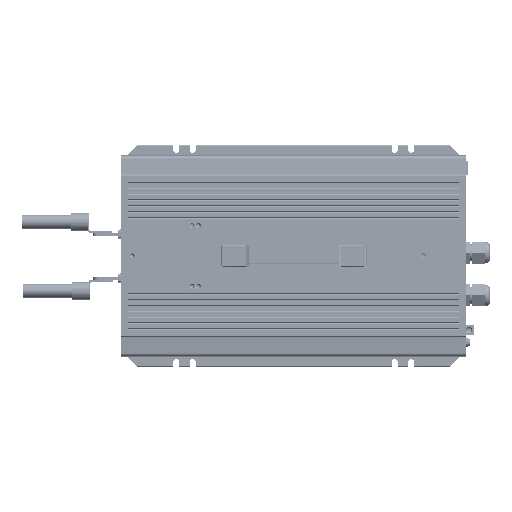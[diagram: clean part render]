
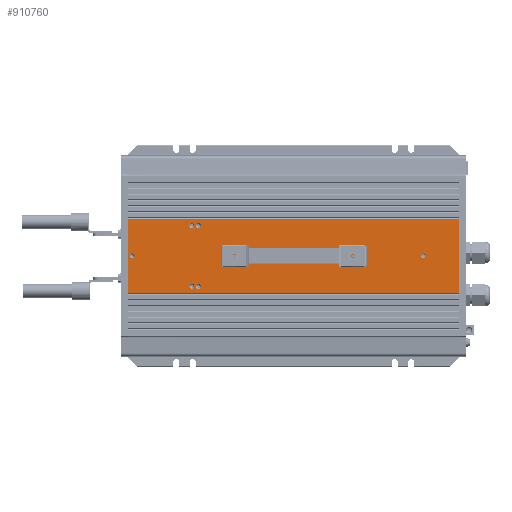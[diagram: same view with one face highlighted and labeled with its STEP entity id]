
A CAD part, top view. The second image highlights one B-rep face of the part: STEP entity #910760.
In plain terms, the highlighted planar face has unit normal (0, 0, 1) as drawn and (0, 1, 0) by its records, which use the part's own axes.
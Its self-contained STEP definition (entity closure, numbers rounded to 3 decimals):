
#888040=CARTESIAN_POINT('',(2078.449,98.104,-63.1));
#888050=VERTEX_POINT('',#888040);
#888080=CARTESIAN_POINT('',(1988.299,98.104,-63.1));
#888090=DIRECTION('',(1.,0.,0.));
#888100=VECTOR('',#888090,90.15);
#888110=LINE('',#888080,#888100);
#888120=CARTESIAN_POINT('',(1988.299,98.104,-63.1));
#888130=VERTEX_POINT('',#888120);
#888140=EDGE_CURVE('',#888130,#888050,#888110,.T.);
#897020=CARTESIAN_POINT('',(1988.299,98.104,340.9));
#897030=VERTEX_POINT('',#897020);
#897060=CARTESIAN_POINT('',(2078.449,98.104,340.9));
#897070=DIRECTION('',(-1.,0.,0.));
#897080=VECTOR('',#897070,90.15);
#897090=LINE('',#897060,#897080);
#897100=CARTESIAN_POINT('',(2078.449,98.104,340.9));
#897110=VERTEX_POINT('',#897100);
#897120=EDGE_CURVE('',#897110,#897030,#897090,.T.);
#908860=CARTESIAN_POINT('',(2030.374,98.104,296.9));
#908870=VERTEX_POINT('',#908860);
#908990=CARTESIAN_POINT('',(2036.374,98.104,296.9));
#909000=VERTEX_POINT('',#908990);
#909030=CARTESIAN_POINT('',(2033.374,98.104,296.9));
#909040=DIRECTION('',(0.,-1.,0.));
#909050=DIRECTION('',(1.,0.,0.));
#909060=AXIS2_PLACEMENT_3D('',#909030,#909040,#909050);
#909070=CIRCLE('',#909060,3.);
#909080=EDGE_CURVE('',#909000,#908870,#909070,.T.);
#909370=CARTESIAN_POINT('',(2028.721,98.104,122.9));
#909380=DIRECTION('',(0.,-1.,0.));
#909390=DIRECTION('',(1.,0.,0.));
#909400=AXIS2_PLACEMENT_3D('',#909370,#909380,#909390);
#909410=PLANE('',#909400);
#909420=CARTESIAN_POINT('',(2033.376,98.104,210.9));
#909430=DIRECTION('',(0.,1.,0.));
#909440=DIRECTION('',(0.,0.,1.));
#909450=AXIS2_PLACEMENT_3D('',#909420,#909430,#909440);
#909460=CIRCLE('',#909450,1.6);
#909470=CARTESIAN_POINT('',(2033.376,98.104,212.5));
#909480=VERTEX_POINT('',#909470);
#909490=CARTESIAN_POINT('',(2033.376,98.104,209.3));
#909500=VERTEX_POINT('',#909490);
#909510=EDGE_CURVE('',#909480,#909500,#909460,.T.);
#909520=ORIENTED_EDGE('',*,*,#909510,.F.);
#909530=EDGE_CURVE('',#909500,#909480,#909460,.T.);
#909540=ORIENTED_EDGE('',*,*,#909530,.F.);
#909550=EDGE_LOOP('',(#909540,#909520));
#909560=FACE_BOUND('',#909550,.T.);
#909570=CARTESIAN_POINT('',(1996.284,98.104,22.949)
);
#909580=DIRECTION('',(0.,1.,0.));
#909590=DIRECTION('',(1.,0.,0.));
#909600=AXIS2_PLACEMENT_3D('',#909570,#909580,#909590);
#909610=CIRCLE('',#909600,3.);
#909620=CARTESIAN_POINT('',(1996.284,98.104,19.949)
);
#909630=VERTEX_POINT('',#909620);
#909640=CARTESIAN_POINT('',(1993.284,98.104,22.949)
);
#909650=VERTEX_POINT('',#909640);
#909660=EDGE_CURVE('',#909630,#909650,#909610,.T.);
#909670=ORIENTED_EDGE('',*,*,#909660,.F.);
#909680=CARTESIAN_POINT('',(1999.284,98.104,22.949)
);
#909690=VERTEX_POINT('',#909680);
#909700=EDGE_CURVE('',#909650,#909690,#909610,.T.);
#909710=ORIENTED_EDGE('',*,*,#909700,.F.);
#909720=EDGE_CURVE('',#909690,#909630,#909610,.T.);
#909730=ORIENTED_EDGE('',*,*,#909720,.F.);
#909740=EDGE_LOOP('',(#909730,#909710,#909670));
#909750=FACE_BOUND('',#909740,.T.);
#909760=EDGE_CURVE('',#908870,#909000,#909070,.T.);
#909770=ORIENTED_EDGE('',*,*,#909760,.T.);
#909780=ORIENTED_EDGE('',*,*,#909080,.T.);
#909790=EDGE_LOOP('',(#909780,#909770));
#909800=FACE_BOUND('',#909790,.T.);
#909810=CARTESIAN_POINT('',(2033.376,98.104,-57.6));
#909820=DIRECTION('',(0.,-1.,0.));
#909830=DIRECTION('',(-1.,0.,0.));
#909840=AXIS2_PLACEMENT_3D('',#909810,#909820,#909830);
#909850=CIRCLE('',#909840,3.);
#909860=CARTESIAN_POINT('',(2030.376,98.104,
-57.6));
#909870=VERTEX_POINT('',#909860);
#909880=CARTESIAN_POINT('',(2036.376,98.104,
-57.6));
#909890=VERTEX_POINT('',#909880);
#909900=EDGE_CURVE('',#909870,#909890,#909850,.T.);
#909910=ORIENTED_EDGE('',*,*,#909900,.T.);
#909920=EDGE_CURVE('',#909890,#909870,#909850,.T.);
#909930=ORIENTED_EDGE('',*,*,#909920,.T.);
#909940=EDGE_LOOP('',(#909930,#909910));
#909950=FACE_BOUND('',#909940,.T.);
#909960=CARTESIAN_POINT('',(2070.318,98.104,14.949));
#909970=DIRECTION('',(0.,1.,0.));
#909980=DIRECTION('',(1.,0.,0.));
#909990=AXIS2_PLACEMENT_3D('',#909960,#909970,#909980);
#910000=CIRCLE('',#909990,3.);
#910010=CARTESIAN_POINT('',(2073.318,98.104,14.949));
#910020=VERTEX_POINT('',#910010);
#910030=CARTESIAN_POINT('',(2067.318,98.104,14.949));
#910040=VERTEX_POINT('',#910030);
#910050=EDGE_CURVE('',#910020,#910040,#910000,.T.);
#910060=ORIENTED_EDGE('',*,*,#910050,.F.);
#910070=EDGE_CURVE('',#910040,#910020,#910000,.T.);
#910080=ORIENTED_EDGE('',*,*,#910070,.F.);
#910090=EDGE_LOOP('',(#910080,#910060));
#910100=FACE_BOUND('',#910090,.T.);
#910110=CARTESIAN_POINT('',(1996.284,98.104,14.949)
);
#910120=DIRECTION('',(0.,1.,0.));
#910130=DIRECTION('',(1.,0.,0.));
#910140=AXIS2_PLACEMENT_3D('',#910110,#910120,#910130);
#910150=CIRCLE('',#910140,3.);
#910160=CARTESIAN_POINT('',(1995.513,98.104,12.05)
);
#910170=VERTEX_POINT('',#910160);
#910180=CARTESIAN_POINT('',(1993.284,98.104,14.949)
);
#910190=VERTEX_POINT('',#910180);
#910200=EDGE_CURVE('',#910170,#910190,#910150,.T.);
#910210=ORIENTED_EDGE('',*,*,#910200,.F.);
#910220=CARTESIAN_POINT('',(1999.284,98.104,14.949)
);
#910230=VERTEX_POINT('',#910220);
#910240=EDGE_CURVE('',#910190,#910230,#910150,.T.);
#910250=ORIENTED_EDGE('',*,*,#910240,.F.);
#910260=EDGE_CURVE('',#910230,#910170,#910150,.T.);
#910270=ORIENTED_EDGE('',*,*,#910260,.F.);
#910280=EDGE_LOOP('',(#910270,#910250,#910210));
#910290=FACE_BOUND('',#910280,.T.);
#910300=CARTESIAN_POINT('',(2070.318,98.104,22.949));
#910310=DIRECTION('',(0.,1.,0.));
#910320=DIRECTION('',(1.,0.,0.));
#910330=AXIS2_PLACEMENT_3D('',#910300,#910310,#910320);
#910340=CIRCLE('',#910330,3.);
#910350=CARTESIAN_POINT('',(2073.318,98.104,22.949));
#910360=VERTEX_POINT('',#910350);
#910370=CARTESIAN_POINT('',(2067.318,98.104,22.949));
#910380=VERTEX_POINT('',#910370);
#910390=EDGE_CURVE('',#910360,#910380,#910340,.T.);
#910400=ORIENTED_EDGE('',*,*,#910390,.F.);
#910410=EDGE_CURVE('',#910380,#910360,#910340,.T.);
#910420=ORIENTED_EDGE('',*,*,#910410,.F.);
#910430=EDGE_LOOP('',(#910420,#910400));
#910440=FACE_BOUND('',#910430,.T.);
#910450=CARTESIAN_POINT('',(2033.376,98.104,66.9));
#910460=DIRECTION('',(0.,1.,0.));
#910470=DIRECTION('',(0.,0.,1.));
#910480=AXIS2_PLACEMENT_3D('',#910450,#910460,#910470);
#910490=CIRCLE('',#910480,1.6);
#910500=CARTESIAN_POINT('',(2033.376,98.104,68.5));
#910510=VERTEX_POINT('',#910500);
#910520=CARTESIAN_POINT('',(2033.376,98.104,65.3));
#910530=VERTEX_POINT('',#910520);
#910540=EDGE_CURVE('',#910510,#910530,#910490,.T.);
#910550=ORIENTED_EDGE('',*,*,#910540,.F.);
#910560=EDGE_CURVE('',#910530,#910510,#910490,.T.);
#910570=ORIENTED_EDGE('',*,*,#910560,.F.);
#910580=EDGE_LOOP('',(#910570,#910550));
#910590=FACE_BOUND('',#910580,.T.);
#910600=ORIENTED_EDGE('',*,*,#888140,.F.);
#910610=CARTESIAN_POINT('',(2078.449,98.104,-63.1));
#910620=DIRECTION('',(0.,0.,1.));
#910630=VECTOR('',#910620,404.);
#910640=LINE('',#910610,#910630);
#910650=EDGE_CURVE('',#888050,#897110,#910640,.T.);
#910660=ORIENTED_EDGE('',*,*,#910650,.F.);
#910670=ORIENTED_EDGE('',*,*,#897120,.F.);
#910680=CARTESIAN_POINT('',(1988.299,98.104,340.9));
#910690=DIRECTION('',(0.,0.,-1.));
#910700=VECTOR('',#910690,404.);
#910710=LINE('',#910680,#910700);
#910720=EDGE_CURVE('',#897030,#888130,#910710,.T.);
#910730=ORIENTED_EDGE('',*,*,#910720,.F.);
#910740=EDGE_LOOP('',(#910730,#910670,#910660,#910600));
#910750=FACE_OUTER_BOUND('',#910740,.T.);
#910760=ADVANCED_FACE('',(#909560,#909750,#909800,#909950,#910100,
#910290,#910440,#910590,#910750),#909410,.F.);
